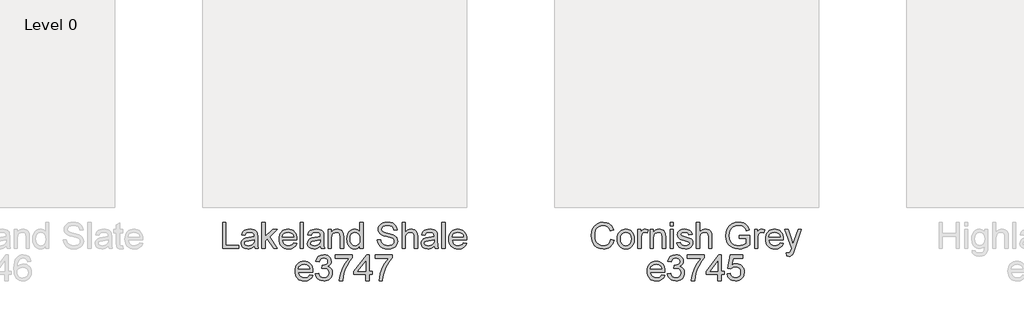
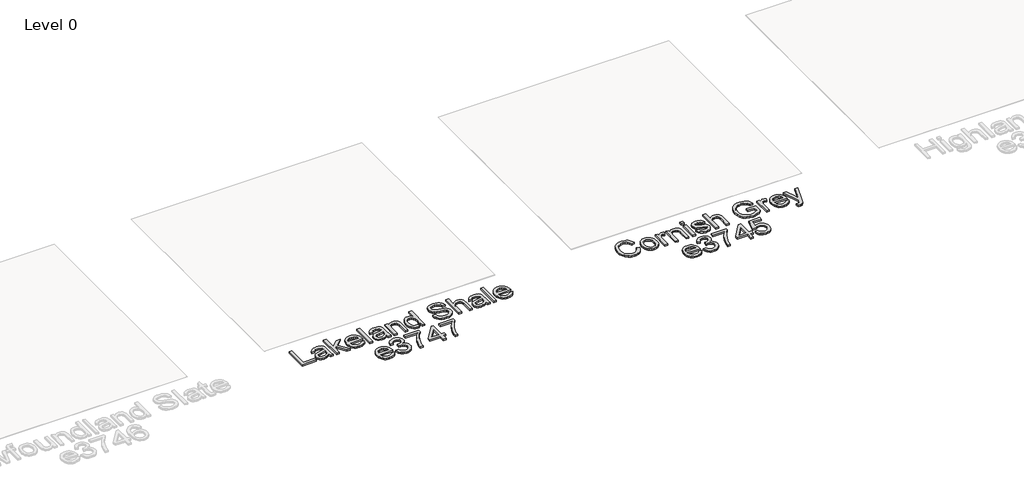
# One storey, part 2 of 3: 2 proxies.
"""IFC4 building model written with IfcOpenShell, lengths in millimetres."""

from ifc_helpers import new_model, si_unit, origin, origin_with_axes, place, context, project, spatial, polyline, outline, extrude, element, save

model = new_model("IFC4")

# Units and contexts
model_context = context("Model", 3, world=origin())
ifc_project = project(units=[si_unit("LENGTHUNIT", "METRE", prefix="MILLI")], contexts=[model_context])

# Site, building, storey
site = spatial("IfcSite", under=ifc_project)
building = spatial("IfcBuilding", under=site)
storey = spatial("IfcBuildingStorey", under=building, Name="Level 0", Elevation=0.0)

# Proxies
placement = place(None, origin())
element("IfcBuildingElementProxy", 1, Name="300mm Arial", ObjectType="300mm Arial", at=placement, inside=storey, context=model_context, shape_type="SweptSolid", body=[
    extrude(outline(polyline([(-5227.729111, 2062.8269821), (-5227.729111, 2358.2115975), (-5190.806034, 2358.2115975), (-5190.806034, 2099.7500591), (-5043.1137264, 2099.7500591), (-5043.1137264, 2062.8269821), (-5227.729111, 2062.8269821)])), origin_with_axes(), (0.0, 0.0, 1.0), 20.0),
    extrude(outline(polyline([(-4867.729111, 2090.5192898), (-4885.3703369, 2075.3930879), (-4903.5343994, 2065.4952514), (-4922.6359619, 2060.032511), (-4943.0896879, 2058.2115975), (-4973.9460581, 2062.5926071), (-4996.7074764, 2075.735636), (-5010.7429331, 2095.6935687), (-5015.4214187, 2120.5192898), (-5013.6545917, 2135.8257802), (-5008.354111, 2149.7260206), (-5000.1780292, 2161.6250591), (-4989.7843994, 2170.9279437), (-4963.931034, 2183.0433283), (-4931.9839187, 2188.5962129), (-4894.2315148, 2194.4375591), (-4867.9454571, 2201.2885206), (-4867.729111, 2209.5096745), (-4870.2711783, 2225.9880398), (-4877.8973802, 2236.7692898), (-4894.9526687, 2244.7740975), (-4918.7146879, 2247.4423668), (-4940.7098802, 2245.6665254), (-4956.0704571, 2240.3390014), (-4966.5452167, 2230.486237), (-4973.8829571, 2215.1346745), (-5010.806034, 2219.7500591), (-5004.3967792, 2239.9423668), (-4994.8324764, 2255.8077514), (-4981.2206975, 2267.9411648), (-4962.6690148, 2276.9375591), (-4939.9797119, 2282.5084725), (-4913.9550725, 2284.3654437), (-4888.994135, 2282.7248187), (-4869.2074764, 2277.8029437), (-4854.2886062, 2270.4021023), (-4843.931034, 2261.3245783), (-4837.0620437, 2250.1016216), (-4832.6089187, 2236.2644821), (-4830.806034, 2203.9567898), (-4830.806034, 2158.0192898), (-4828.931034, 2093.8726552), (-4821.5752648, 2062.8269821), (-4858.4983417, 2062.8269821), (-4867.729111, 2090.5192898)]), holes=[polyline([(-4867.729111, 2164.3654437), (-4927.2964187, 2153.0433283), (-4959.0632456, 2147.0577514), (-4973.4502648, 2137.3221745), (-4978.4983417, 2123.1154437), (-4975.7489427, 2112.1358764), (-4967.5007456, 2103.1394821), (-4953.9340389, 2097.1358764), (-4935.229111, 2095.1346745), (-4915.3973802, 2097.3432081), (-4897.8733417, 2103.9688091), (-4883.666611, 2113.7314293), (-4873.7868033, 2125.3510206), (-4869.4057937, 2137.3221745), (-4867.9454571, 2153.9087129), (-4867.729111, 2164.3654437)])]), origin_with_axes(), (0.0, 0.0, 1.0), 20.0),
    extrude(outline(polyline([(-4780.0368033, 2062.8269821), (-4780.0368033, 2358.2115975), (-4743.1137264, 2358.2115975), (-4743.1137264, 2199.485636), (-4660.3252648, 2279.7500591), (-4609.2675725, 2279.7500591), (-4693.0656494, 2198.4760206), (-4604.6521879, 2062.8269821), (-4647.7771879, 2062.8269821), (-4719.5319956, 2172.8029437), (-4743.1137264, 2149.9423668), (-4743.1137264, 2062.8269821), (-4780.0368033, 2062.8269821)])), origin_with_axes(), (0.0, 0.0, 1.0), 20.0),
    extrude(outline(polyline([(-4420.4694956, 2127.4423668), (-4384.2675725, 2122.8269821), (-4397.3114427, 2095.5493379), (-4418.1257456, 2075.1587129), (-4446.2417312, 2062.4483764), (-4481.1906494, 2058.2115975), (-4504.1008057, 2060.0392718), (-4524.5139667, 2065.5222946), (-4542.4301326, 2074.660666), (-4557.8493033, 2087.454386), (-4570.2486422, 2103.5473848), (-4579.1053129, 2122.5835927), (-4584.4193153, 2144.5630098), (-4586.1906494, 2169.485636), (-4584.4012864, 2195.2533644), (-4579.0331975, 2217.9652033), (-4570.0863826, 2237.6211528), (-4557.5608417, 2254.2212129), (-4542.182236, 2267.4093139), (-4524.6762264, 2276.829386), (-4505.0428129, 2282.4814293), (-4483.2819956, 2284.3654437), (-4462.2220497, 2282.4859365), (-4443.1768273, 2276.8474148), (-4426.1463285, 2267.4498788), (-4411.1305533, 2254.2933283), (-4398.8731915, 2237.7293259), (-4390.1179331, 2218.1094341), (-4384.864778, 2195.4336528), (-4383.1137264, 2169.7019821), (-4383.3300725, 2159.7500591), (-4549.2675725, 2159.7500591), (-4542.8763465, 2132.1118379), (-4528.0295917, 2111.7933283), (-4506.6023081, 2099.2993379), (-4480.4694956, 2095.1346745), (-4460.8180533, 2097.063761), (-4444.2675725, 2102.8510206), (-4430.8180533, 2112.8570302), (-4420.4694956, 2127.4423668)]), holes=[polyline([(-4549.2675725, 2196.673136), (-4420.0368033, 2196.673136), (-4425.0307937, 2216.1803475), (-4434.8204571, 2230.1346745), (-4456.3468994, 2243.1154437), (-4483.4262264, 2247.4423668), (-4508.3150485, 2243.9898427), (-4528.8949764, 2233.6322706), (-4543.2008658, 2217.4874389), (-4549.2675725, 2196.673136)])]), origin_with_axes(), (0.0, 0.0, 1.0), 20.0),
    extrude(outline(polyline([(-4346.1906494, 2062.8269821), (-4346.1906494, 2358.2115975), (-4309.2675725, 2358.2115975), (-4309.2675725, 2062.8269821), (-4346.1906494, 2062.8269821)])), origin_with_axes(), (0.0, 0.0, 1.0), 20.0),
    extrude(outline(polyline([(-4115.4214187, 2090.5192898), (-4133.0626446, 2075.3930879), (-4151.2267071, 2065.4952514), (-4170.3282696, 2060.032511), (-4190.7819956, 2058.2115975), (-4221.6383658, 2062.5926071), (-4244.399784, 2075.735636), (-4258.4352408, 2095.6935687), (-4263.1137264, 2120.5192898), (-4261.3468994, 2135.8257802), (-4256.0464187, 2149.7260206), (-4247.8703369, 2161.6250591), (-4237.4767071, 2170.9279437), (-4211.6233417, 2183.0433283), (-4179.6762264, 2188.5962129), (-4141.9238225, 2194.4375591), (-4115.6377648, 2201.2885206), (-4115.4214187, 2209.5096745), (-4117.963486, 2225.9880398), (-4125.5896879, 2236.7692898), (-4142.6449764, 2244.7740975), (-4166.4069956, 2247.4423668), (-4188.4021879, 2245.6665254), (-4203.7627648, 2240.3390014), (-4214.2375244, 2230.486237), (-4221.5752648, 2215.1346745), (-4258.4983417, 2219.7500591), (-4252.0890869, 2239.9423668), (-4242.524784, 2255.8077514), (-4228.9130052, 2267.9411648), (-4210.3613225, 2276.9375591), (-4187.6720196, 2282.5084725), (-4161.6473802, 2284.3654437), (-4136.6864427, 2282.7248187), (-4116.899784, 2277.8029437), (-4101.9809139, 2270.4021023), (-4091.6233417, 2261.3245783), (-4084.7543514, 2250.1016216), (-4080.3012264, 2236.2644821), (-4078.4983417, 2203.9567898), (-4078.4983417, 2158.0192898), (-4076.6233417, 2093.8726552), (-4069.2675725, 2062.8269821), (-4106.1906494, 2062.8269821), (-4115.4214187, 2090.5192898)]), holes=[polyline([(-4115.4214187, 2164.3654437), (-4174.9887264, 2153.0433283), (-4206.7555533, 2147.0577514), (-4221.1425725, 2137.3221745), (-4226.1906494, 2123.1154437), (-4223.4412504, 2112.1358764), (-4215.1930533, 2103.1394821), (-4201.6263465, 2097.1358764), (-4182.9214187, 2095.1346745), (-4163.0896879, 2097.3432081), (-4145.5656494, 2103.9688091), (-4131.3589187, 2113.7314293), (-4121.479111, 2125.3510206), (-4117.0981014, 2137.3221745), (-4115.6377648, 2153.9087129), (-4115.4214187, 2164.3654437)])]), origin_with_axes(), (0.0, 0.0, 1.0), 20.0),
    extrude(outline(polyline([(-4027.729111, 2062.8269821), (-4027.729111, 2279.7500591), (-3990.806034, 2279.7500591), (-3990.806034, 2249.4615975), (-3977.97851, 2264.7320302), (-3962.572861, 2275.6394821), (-3944.5890869, 2282.1839533), (-3924.0271879, 2284.3654437), (-3905.8270677, 2282.6076312), (-3889.1593994, 2277.3341937), (-3875.259159, 2269.2031841), (-3865.3613225, 2258.8726552), (-3854.291611, 2231.7212129), (-3852.3444956, 2196.0240975), (-3852.3444956, 2062.8269821), (-3889.2675725, 2062.8269821), (-3889.2675725, 2191.048136), (-3893.5223802, 2223.7164052), (-3899.4087985, 2233.4429677), (-3908.5584379, 2240.9880398), (-3920.2862023, 2245.828785), (-3933.9069956, 2247.4423668), (-3955.5325965, 2243.8185687), (-3973.9670917, 2232.9471745), (-3981.334129, 2224.0724749), (-3986.5962985, 2211.9435687), (-3990.806034, 2177.923136), (-3990.806034, 2062.8269821), (-4027.729111, 2062.8269821)])), origin_with_axes(), (0.0, 0.0, 1.0), 20.0),
    extrude(outline(polyline([(-3667.729111, 2062.8269821), (-3667.729111, 2097.6587129), (-3678.7762864, 2080.4005999), (-3692.1581975, 2068.0733764), (-3707.8748441, 2060.6770422), (-3725.9262264, 2058.2115975), (-3749.7964187, 2061.7813091), (-3771.6473802, 2072.4904437), (-3790.1449764, 2089.5908043), (-3803.9550725, 2112.3341937), (-3812.5548321, 2139.8011408), (-3815.4214187, 2171.0721745), (-3812.7801927, 2201.9555879), (-3804.8565148, 2229.8462129), (-3791.6593994, 2253.157511), (-3773.197861, 2270.3029437), (-3750.869135, 2280.8498187), (-3726.0704571, 2284.3654437), (-3708.0055533, 2281.8504196), (-3692.0319956, 2274.3053475), (-3678.4923321, 2262.7398427), (-3667.729111, 2248.1635206), (-3667.729111, 2358.2115975), (-3630.806034, 2358.2115975), (-3630.806034, 2062.8269821), (-3667.729111, 2062.8269821)]), holes=[polyline([(-3778.4983417, 2171.2164052), (-3774.3336783, 2137.8179677), (-3761.8396879, 2114.0649629), (-3743.6846398, 2099.8672466), (-3722.5368033, 2095.1346745), (-3701.3979812, 2099.6509004), (-3683.7026687, 2113.1995783), (-3671.7225004, 2136.033112), (-3667.729111, 2168.4039052), (-3671.7946158, 2203.7945302), (-3683.9911302, 2228.3317898), (-3702.1371639, 2242.6647225), (-3724.0512264, 2247.4423668), (-3745.415409, 2242.8540254), (-3762.9214187, 2229.0890014), (-3774.604111, 2205.4441696), (-3778.4983417, 2171.2164052)])]), origin_with_axes(), (0.0, 0.0, 1.0), 20.0),
    extrude(outline(polyline([(-3469.2675725, 2164.3654437), (-3432.3444956, 2164.3654437), (-3428.1077167, 2143.87566), (-3420.4454571, 2127.4063091), (-3408.4923321, 2114.3353956), (-3391.3829571, 2104.0409245), (-3370.4694956, 2097.361237), (-3347.104111, 2095.1346745), (-3326.5331975, 2096.8203716), (-3308.5223802, 2101.8774629), (-3293.9280292, 2109.8822706), (-3283.6065148, 2120.4111168), (-3277.4676927, 2132.4994581), (-3275.4214187, 2145.1827514), (-3276.9538706, 2157.5415254), (-3281.5512264, 2168.2236168), (-3290.8901687, 2177.3371985), (-3306.6473802, 2184.9904437), (-3360.4093994, 2199.0890014), (-3395.7008658, 2208.4189293), (-3418.2819956, 2217.298136), (-3436.6624042, 2229.720011), (-3449.6882456, 2244.7740975), (-3457.4496639, 2262.1358764), (-3460.0368033, 2281.4808283), (-3456.8366831, 2303.1064293), (-3447.2363225, 2323.2716937), (-3431.4881254, 2340.3630398), (-3409.8444956, 2352.766886), (-3383.8649283, 2360.3119581), (-3355.1089187, 2362.8269821), (-3323.9550725, 2360.1947706), (-3296.6954571, 2352.298136), (-3274.3036302, 2339.2993379), (-3257.7531494, 2321.360636), (-3247.2783898, 2299.5998187), (-3243.1137264, 2275.1346745), (-3280.0368033, 2275.1346745), (-3286.8156494, 2297.1659245), (-3300.9502648, 2313.0673668), (-3323.0356014, 2322.6947706), (-3353.666611, 2325.9039052), (-3385.0187744, 2322.7308283), (-3406.5271879, 2313.2115975), (-3418.9670917, 2299.2031841), (-3423.1137264, 2282.5625591), (-3420.1750244, 2268.3738571), (-3411.3589187, 2256.9615975), (-3390.5175725, 2246.7572706), (-3351.0704571, 2236.3365975), (-3285.7339187, 2217.8029437), (-3264.6852408, 2204.407511), (-3250.0007456, 2187.8750591), (-3241.3739427, 2168.3858764), (-3238.4983417, 2146.1202514), (-3241.806635, 2123.3588331), (-3251.7315148, 2101.9495783), (-3267.8673321, 2083.5240975), (-3289.8084379, 2069.7140014), (-3316.1936542, 2061.0871985), (-3345.6618033, 2058.2115975), (-3381.8366831, 2061.3125591), (-3411.6113225, 2070.6154437), (-3435.3282696, 2086.1563091), (-3453.3300725, 2107.9712129), (-3464.8865629, 2134.5457321), (-3469.2675725, 2164.3654437)])), origin_with_axes(), (0.0, 0.0, 1.0), 20.0),
    extrude(outline(polyline([(-3187.729111, 2062.8269821), (-3187.729111, 2358.2115975), (-3150.806034, 2358.2115975), (-3150.806034, 2249.6058283), (-3137.2438345, 2264.81316), (-3122.0139667, 2275.6755398), (-3105.1164307, 2282.1929677), (-3086.5512264, 2284.3654437), (-3064.2495437, 2281.9946504), (-3045.0848802, 2274.8822706), (-3029.994736, 2263.5871985), (-3019.916611, 2248.6683283), (-3014.2375244, 2228.1695302), (-3012.3444956, 2200.1346745), (-3012.3444956, 2062.8269821), (-3049.2675725, 2062.8269821), (-3049.2675725, 2196.3125591), (-3052.2062744, 2219.4255398), (-3061.0223802, 2235.2548668), (-3075.229111, 2244.3954918), (-3094.3396879, 2247.4423668), (-3109.9436542, 2245.3870783), (-3124.5920917, 2239.2212129), (-3136.7255052, 2229.5397225), (-3144.7843994, 2216.9375591), (-3149.3006254, 2200.188761), (-3150.806034, 2178.0673668), (-3150.806034, 2062.8269821), (-3187.729111, 2062.8269821)])), origin_with_axes(), (0.0, 0.0, 1.0), 20.0),
    extrude(outline(polyline([(-2823.1137264, 2090.5192898), (-2840.7549523, 2075.3930879), (-2858.9190148, 2065.4952514), (-2878.0205773, 2060.032511), (-2898.4743033, 2058.2115975), (-2929.3306735, 2062.5926071), (-2952.0920917, 2075.735636), (-2966.1275485, 2095.6935687), (-2970.806034, 2120.5192898), (-2969.0392071, 2135.8257802), (-2963.7387264, 2149.7260206), (-2955.5626446, 2161.6250591), (-2945.1690148, 2170.9279437), (-2919.3156494, 2183.0433283), (-2887.368534, 2188.5962129), (-2849.6161302, 2194.4375591), (-2823.3300725, 2201.2885206), (-2823.1137264, 2209.5096745), (-2825.6557937, 2225.9880398), (-2833.2819956, 2236.7692898), (-2850.337284, 2244.7740975), (-2874.0993033, 2247.4423668), (-2896.0944956, 2245.6665254), (-2911.4550725, 2240.3390014), (-2921.9298321, 2230.486237), (-2929.2675725, 2215.1346745), (-2966.1906494, 2219.7500591), (-2959.7813946, 2239.9423668), (-2950.2170917, 2255.8077514), (-2936.6053129, 2267.9411648), (-2918.0536302, 2276.9375591), (-2895.3643273, 2282.5084725), (-2869.3396879, 2284.3654437), (-2844.3787504, 2282.7248187), (-2824.5920917, 2277.8029437), (-2809.6732215, 2270.4021023), (-2799.3156494, 2261.3245783), (-2792.446659, 2250.1016216), (-2787.993534, 2236.2644821), (-2786.1906494, 2203.9567898), (-2786.1906494, 2158.0192898), (-2784.3156494, 2093.8726552), (-2776.9598802, 2062.8269821), (-2813.8829571, 2062.8269821), (-2823.1137264, 2090.5192898)]), holes=[polyline([(-2823.1137264, 2164.3654437), (-2882.681034, 2153.0433283), (-2914.447861, 2147.0577514), (-2928.8348802, 2137.3221745), (-2933.8829571, 2123.1154437), (-2931.1335581, 2112.1358764), (-2922.885361, 2103.1394821), (-2909.3186542, 2097.1358764), (-2890.6137264, 2095.1346745), (-2870.7819956, 2097.3432081), (-2853.2579571, 2103.9688091), (-2839.0512264, 2113.7314293), (-2829.1714187, 2125.3510206), (-2824.790409, 2137.3221745), (-2823.3300725, 2153.9087129), (-2823.1137264, 2164.3654437)])]), origin_with_axes(), (0.0, 0.0, 1.0), 20.0),
    extrude(outline(polyline([(-2735.4214187, 2062.8269821), (-2735.4214187, 2358.2115975), (-2698.4983417, 2358.2115975), (-2698.4983417, 2062.8269821), (-2735.4214187, 2062.8269821)])), origin_with_axes(), (0.0, 0.0, 1.0), 20.0),
    extrude(outline(polyline([(-2491.2387264, 2127.4423668), (-2455.0368033, 2122.8269821), (-2468.0806735, 2095.5493379), (-2488.8949764, 2075.1587129), (-2517.0109619, 2062.4483764), (-2551.9598802, 2058.2115975), (-2574.8700364, 2060.0392718), (-2595.2831975, 2065.5222946), (-2613.1993634, 2074.660666), (-2628.618534, 2087.454386), (-2641.017873, 2103.5473848), (-2649.8745437, 2122.5835927), (-2655.1885461, 2144.5630098), (-2656.9598802, 2169.485636), (-2655.1705172, 2195.2533644), (-2649.8024283, 2217.9652033), (-2640.8556134, 2237.6211528), (-2628.3300725, 2254.2212129), (-2612.9514667, 2267.4093139), (-2595.4454571, 2276.829386), (-2575.8120437, 2282.4814293), (-2554.0512264, 2284.3654437), (-2532.9912804, 2282.4859365), (-2513.9460581, 2276.8474148), (-2496.9155593, 2267.4498788), (-2481.899784, 2254.2933283), (-2469.6424223, 2237.7293259), (-2460.8871639, 2218.1094341), (-2455.6340088, 2195.4336528), (-2453.8829571, 2169.7019821), (-2454.0993033, 2159.7500591), (-2620.0368033, 2159.7500591), (-2613.6455773, 2132.1118379), (-2598.7988225, 2111.7933283), (-2577.3715389, 2099.2993379), (-2551.2387264, 2095.1346745), (-2531.587284, 2097.063761), (-2515.0368033, 2102.8510206), (-2501.587284, 2112.8570302), (-2491.2387264, 2127.4423668)]), holes=[polyline([(-2620.0368033, 2196.673136), (-2490.806034, 2196.673136), (-2495.8000244, 2216.1803475), (-2505.5896879, 2230.1346745), (-2527.1161302, 2243.1154437), (-2554.1954571, 2247.4423668), (-2579.0842792, 2243.9898427), (-2599.6642071, 2233.6322706), (-2613.9700965, 2217.4874389), (-2620.0368033, 2196.673136)])]), origin_with_axes(), (0.0, 0.0, 1.0), 20.0),
    extrude(outline(polyline([(-4238.1618033, 1762.8269821), (-4201.9598802, 1758.2115975), (-4215.0037504, 1730.9339533), (-4235.8180533, 1710.5433283), (-4263.9340389, 1697.8329918), (-4298.8829571, 1693.5962129), (-4321.7931134, 1695.4238872), (-4342.2062744, 1700.90691), (-4360.1224403, 1710.0452814), (-4375.541611, 1722.8390014), (-4387.9409499, 1738.9320002), (-4396.7976206, 1757.9682081), (-4402.111623, 1779.9476252), (-4403.8829571, 1804.8702514), (-4402.0935941, 1830.6379797), (-4396.7255052, 1853.3498187), (-4387.7786903, 1873.0057682), (-4375.2531494, 1889.6058283), (-4359.8745437, 1902.7939293), (-4342.368534, 1912.2140014), (-4322.7351206, 1917.8660446), (-4300.9743033, 1919.7500591), (-4279.9143574, 1917.8705519), (-4260.869135, 1912.2320302), (-4243.8386362, 1902.8344942), (-4228.822861, 1889.6779437), (-4216.5654992, 1873.1139413), (-4207.8102408, 1853.4940495), (-4202.5570857, 1830.8182682), (-4200.806034, 1805.0865975), (-4201.0223802, 1795.1346745), (-4366.9598802, 1795.1346745), (-4360.5686542, 1767.4964533), (-4345.7218994, 1747.1779437), (-4324.2946158, 1734.6839533), (-4298.1618033, 1730.5192898), (-4278.510361, 1732.4483764), (-4261.9598802, 1738.235636), (-4248.510361, 1748.2416456), (-4238.1618033, 1762.8269821)]), holes=[polyline([(-4366.9598802, 1832.0577514), (-4237.729111, 1832.0577514), (-4242.7231014, 1851.5649629), (-4252.5127648, 1865.5192898), (-4274.0392071, 1878.5000591), (-4301.118534, 1882.8269821), (-4326.0073562, 1879.3744581), (-4346.587284, 1869.016886), (-4360.8931735, 1852.8720543), (-4366.9598802, 1832.0577514)])]), origin_with_axes(), (0.0, 0.0, 1.0), 20.0),
    extrude(outline(polyline([(-4173.1137264, 1776.673136), (-4136.1906494, 1781.2885206), (-4127.9244235, 1758.0853956), (-4115.8180533, 1742.4183283), (-4099.2765869, 1733.4940495), (-4077.7050725, 1730.5192898), (-4052.3925725, 1734.6118379), (-4032.8493033, 1746.8894821), (-4020.3553129, 1765.2067898), (-4016.1906494, 1787.4183283), (-4020.3192552, 1808.5030639), (-4032.7050725, 1825.6034245), (-4051.4550725, 1836.9345543), (-4074.6762264, 1840.7115975), (-4100.5656494, 1836.673136), (-4096.4550725, 1873.5962129), (-4090.541611, 1873.1635206), (-4068.4202167, 1875.813761), (-4048.6425725, 1883.7644821), (-4034.6882456, 1897.2140014), (-4030.0368033, 1916.360636), (-4033.4081975, 1932.3071504), (-4043.5223802, 1945.2428475), (-4058.9550725, 1953.8155639), (-4078.2819956, 1956.673136), (-4097.6449764, 1953.7885206), (-4113.4743033, 1945.1346745), (-4125.0307937, 1930.7115975), (-4131.5752648, 1910.5192898), (-4168.4983417, 1915.1346745), (-4157.6269475, 1948.2897225), (-4138.2819956, 1973.0433283), (-4111.8156494, 1988.4579918), (-4079.5800725, 1993.5962129), (-4056.3679331, 1991.06316), (-4035.0488225, 1983.4640014), (-4017.0740629, 1971.4748187), (-4003.8949764, 1955.7716937), (-3995.8090389, 1937.6797466), (-3993.1137264, 1918.5240975), (-3995.6738225, 1900.6755398), (-4003.354111, 1884.485636), (-4016.0464187, 1870.6935687), (-4033.6425725, 1860.0385206), (-4010.5295917, 1850.6995783), (-3993.4021879, 1834.798136), (-3982.8012264, 1813.1995783), (-3979.2675725, 1786.7692898), (-3981.0343994, 1768.0373187), (-3986.3348802, 1750.7837129), (-3995.1690148, 1735.0084725), (-4007.5368033, 1720.7115975), (-4022.6044114, 1708.8486168), (-4039.5380052, 1700.3750591), (-4058.3375845, 1695.2909245), (-4079.0031494, 1693.5962129), (-4114.7002648, 1699.3834725), (-4130.0608417, 1706.6175471), (-4143.7627648, 1716.7452514), (-4155.251647, 1729.1716336), (-4163.9731014, 1743.3017418), (-4173.1137264, 1776.673136)])), origin_with_axes(), (0.0, 0.0, 1.0), 20.0),
    extrude(outline(polyline([(-3946.9598802, 1952.0577514), (-3946.9598802, 1988.9808283), (-3753.1137264, 1988.9808283), (-3753.1137264, 1959.1250591), (-3780.7429331, 1924.158112), (-3808.1017071, 1879.6899629), (-3832.2333177, 1829.7771023), (-3850.181034, 1778.4760206), (-3858.979111, 1740.0926071), (-3863.8829571, 1698.2115975), (-3900.806034, 1698.2115975), (-3896.8126446, 1736.2704918), (-3886.1305533, 1781.5048668), (-3869.0482215, 1829.4525831), (-3845.854111, 1875.6515014), (-3818.774784, 1917.4153235), (-3790.0368033, 1952.0577514), (-3946.9598802, 1952.0577514)])), origin_with_axes(), (0.0, 0.0, 1.0), 20.0),
    extrude(outline(polyline([(-3600.806034, 1698.2115975), (-3600.806034, 1767.4423668), (-3734.6521879, 1767.4423668), (-3734.6521879, 1804.3654437), (-3591.5752648, 1988.9808283), (-3563.8829571, 1988.9808283), (-3563.8829571, 1804.3654437), (-3526.9598802, 1804.3654437), (-3526.9598802, 1767.4423668), (-3563.8829571, 1767.4423668), (-3563.8829571, 1698.2115975), (-3600.806034, 1698.2115975)]), holes=[polyline([(-3600.806034, 1804.3654437), (-3600.806034, 1918.4519821), (-3689.2194956, 1804.3654437), (-3600.806034, 1804.3654437)])]), origin_with_axes(), (0.0, 0.0, 1.0), 20.0),
    extrude(outline(polyline([(-3494.6521879, 1952.0577514), (-3494.6521879, 1988.9808283), (-3300.806034, 1988.9808283), (-3300.806034, 1959.1250591), (-3328.4352408, 1924.158112), (-3355.7940148, 1879.6899629), (-3379.9256254, 1829.7771023), (-3397.8733417, 1778.4760206), (-3406.6714187, 1740.0926071), (-3411.5752648, 1698.2115975), (-3448.4983417, 1698.2115975), (-3444.5049523, 1736.2704918), (-3433.822861, 1781.5048668), (-3416.7405292, 1829.4525831), (-3393.5464187, 1875.6515014), (-3366.4670917, 1917.4153235), (-3337.729111, 1952.0577514), (-3494.6521879, 1952.0577514)])), origin_with_axes(), (0.0, 0.0, 1.0), 20.0),
])
element("IfcBuildingElementProxy", 2, Name="300mm Arial", ObjectType="300mm Arial", at=placement, inside=storey, context=model_context, shape_type="SweptSolid", body=[
    extrude(outline(polyline([(-816.9598802, 2167.8269821), (-780.0368033, 2158.3077514), (-787.3429932, 2135.3457622), (-797.0740629, 2115.28191), (-809.2300124, 2098.1161949), (-823.8108417, 2083.8486168), (-840.4875244, 2072.6324208), (-858.931034, 2064.6208523), (-879.1413706, 2059.8139112), (-901.118534, 2058.2115975), (-943.9460581, 2063.0613571), (-977.9574764, 2077.610636), (-1004.0271879, 2101.3546264), (-1023.0295917, 2133.7885206), (-1034.6311542, 2171.9195302), (-1038.4983417, 2212.7548668), (-1034.1263465, 2255.8257802), (-1021.010361, 2293.0192898), (-999.8354812, 2323.1545062), (-971.2868033, 2345.0505398), (-937.4286302, 2358.3828716), (-900.3252648, 2362.8269821), (-859.8414908, 2357.0757802), (-842.2295617, 2349.8867778), (-826.3709379, 2339.8221745), (-812.5270377, 2327.1478956), (-800.9592792, 2312.1298668), (-784.6521879, 2275.0625591), (-821.5752648, 2266.2644821), (-834.3757456, 2293.1905639), (-851.8637264, 2311.6611168), (-874.2555533, 2322.3432081), (-901.7675725, 2325.9039052), (-933.4803129, 2321.9555879), (-959.5319956, 2310.110636), (-979.3006254, 2291.6130398), (-992.1642071, 2267.7067898), (-999.2225004, 2240.6815495), (-1001.5752648, 2212.8269821), (-998.7898081, 2178.7164052), (-990.4334379, 2149.2212129), (-976.1906494, 2125.4682081), (-955.7459379, 2108.5841937), (-931.2357215, 2098.4970543), (-904.7964187, 2095.1346745), (-873.9761062, 2099.7140014), (-848.2940148, 2113.4519821), (-828.9039908, 2136.204386), (-816.9598802, 2167.8269821)])), origin_with_axes(), (0.0, 0.0, 1.0), 20.0),
    extrude(outline(polyline([(-743.1137264, 2171.2885206), (-741.1170316, 2199.3819701), (-735.1269475, 2223.5902033), (-725.1434739, 2243.9132201), (-711.166611, 2260.3510206), (-697.0950965, 2270.8573307), (-681.5632456, 2278.3618379), (-664.5710581, 2282.8645422), (-646.118534, 2284.3654437), (-625.7481915, 2282.5377694), (-607.3294715, 2277.0547466), (-590.8623742, 2267.9163752), (-576.3468994, 2255.1226552), (-564.4996939, 2239.106279), (-556.0374042, 2220.2999389), (-550.9600304, 2198.7036348), (-549.2675725, 2174.3173668), (-552.260361, 2137.0156841), (-561.2387264, 2108.6202514), (-575.9412504, 2087.3552273), (-596.1065148, 2071.4447706), (-620.0578369, 2061.5198908), (-646.118534, 2058.2115975), (-666.7863526, 2060.032511), (-685.3763465, 2065.4952514), (-701.888516, 2074.5998187), (-716.322861, 2087.3462129), (-728.0438646, 2103.5180879), (-736.41601, 2122.8990975), (-741.4392973, 2145.4892418), (-743.1137264, 2171.2885206)]), holes=[polyline([(-706.1906494, 2171.360636), (-701.9178129, 2137.9441696), (-689.0993033, 2114.1370783), (-669.8084379, 2099.8852754), (-646.118534, 2095.1346745), (-622.5368033, 2099.9123187), (-603.2819956, 2114.2452514), (-590.463486, 2138.3678475), (-586.1906494, 2172.5144821), (-590.4905292, 2204.9573908), (-603.3901687, 2228.4399629), (-622.6720196, 2242.6917658), (-646.118534, 2247.4423668), (-669.8084379, 2242.7097946), (-689.0993033, 2228.5120783), (-701.9178129, 2204.7590735), (-706.1906494, 2171.360636)])]), origin_with_axes(), (0.0, 0.0, 1.0), 20.0),
    extrude(outline(polyline([(-507.729111, 2062.8269821), (-507.729111, 2279.7500591), (-475.4214187, 2279.7500591), (-475.4214187, 2247.6587129), (-463.4863225, 2266.2644821), (-452.4887264, 2277.2260206), (-441.4550725, 2282.5805879), (-429.4118033, 2284.3654437), (-411.0223802, 2281.516886), (-392.3444956, 2272.9712129), (-404.6762264, 2239.8702514), (-417.6569956, 2245.5493379), (-430.6377648, 2247.4423668), (-441.6624042, 2245.6214533), (-451.5151687, 2240.1587129), (-459.4749042, 2231.4688091), (-464.8204571, 2219.9664052), (-469.3096398, 2199.3414052), (-470.806034, 2176.8414052), (-470.806034, 2062.8269821), (-507.729111, 2062.8269821)])), origin_with_axes(), (0.0, 0.0, 1.0), 20.0),
    extrude(outline(polyline([(-369.2675725, 2062.8269821), (-369.2675725, 2279.7500591), (-332.3444956, 2279.7500591), (-332.3444956, 2249.4615975), (-319.5169715, 2264.7320302), (-304.1113225, 2275.6394821), (-286.1275485, 2282.1839533), (-265.5656494, 2284.3654437), (-247.3655292, 2282.6076312), (-230.697861, 2277.3341937), (-216.7976206, 2269.2031841), (-206.899784, 2258.8726552), (-195.8300725, 2231.7212129), (-193.8829571, 2196.0240975), (-193.8829571, 2062.8269821), (-230.806034, 2062.8269821), (-230.806034, 2191.048136), (-235.0608417, 2223.7164052), (-240.94726, 2233.4429677), (-250.0968994, 2240.9880398), (-261.8246639, 2245.828785), (-275.4454571, 2247.4423668), (-297.0710581, 2243.8185687), (-315.5055533, 2232.9471745), (-322.8725905, 2224.0724749), (-328.13476, 2211.9435687), (-332.3444956, 2177.923136), (-332.3444956, 2062.8269821), (-369.2675725, 2062.8269821)])), origin_with_axes(), (0.0, 0.0, 1.0), 20.0),
    extrude(outline(polyline([(-143.1137264, 2321.2885206), (-143.1137264, 2358.2115975), (-106.1906494, 2358.2115975), (-106.1906494, 2321.2885206), (-143.1137264, 2321.2885206)])), origin_with_axes(), (0.0, 0.0, 1.0), 20.0),
    extrude(outline(polyline([(-143.1137264, 2062.8269821), (-143.1137264, 2279.7500591), (-106.1906494, 2279.7500591), (-106.1906494, 2062.8269821), (-143.1137264, 2062.8269821)])), origin_with_axes(), (0.0, 0.0, 1.0), 20.0),
    extrude(outline(polyline([(-64.6521879, 2127.4423668), (-27.729111, 2132.0577514), (-21.9057937, 2116.2644821), (-10.6377648, 2104.6539052), (6.147091, 2097.5144821), (28.520889, 2095.1346745), (50.6242544, 2097.3161648), (66.1651198, 2103.860636), (75.3598313, 2113.3438091), (78.4247352, 2124.3414052), (75.3418025, 2133.7524629), (66.0930044, 2140.9279437), (28.0881967, 2151.4567898), (-27.5127648, 2169.5216937), (-41.5842792, 2178.5992177), (-51.7795917, 2190.6154437), (-57.9725004, 2204.8041456), (-60.0368033, 2220.3990975), (-58.3781494, 2234.704987), (-53.4021879, 2247.9111168), (-45.5596398, 2259.4946504), (-35.3012264, 2268.9327514), (-11.8276687, 2279.8582321), (19.9391583, 2284.3654437), (43.9716102, 2282.5535446), (64.8670429, 2277.1178475), (81.6699275, 2268.5902033), (93.4247352, 2257.5024629), (101.2131967, 2243.0343139), (106.1170429, 2224.3654437), (69.193966, 2219.7500591), (64.5335092, 2231.3696504), (55.3117544, 2240.1226552), (41.4385573, 2245.6124389), (22.8237736, 2247.4423668), (1.6218506, 2245.6935687), (-12.5127648, 2240.4471745), (-20.463486, 2232.8750591), (-23.1137264, 2224.1490975), (-18.7146879, 2213.4039052), (-4.9406494, 2205.2548668), (26.8622352, 2197.3942898), (81.0569467, 2180.0144821), (95.3718506, 2171.7031841), (106.225216, 2160.3269821), (113.0671631, 2145.8498187), (115.3478121, 2128.235636), (112.6705285, 2110.0265014), (104.6386775, 2092.8990975), (91.5587496, 2078.1965735), (73.7372352, 2067.2620783), (52.2107929, 2060.4742177), (28.0160813, 2058.2115975), (-9.213486, 2062.5745783), (-36.3829571, 2075.6635206), (-54.5199764, 2097.3341937), (-64.6521879, 2127.4423668)])), origin_with_axes(), (0.0, 0.0, 1.0), 20.0),
    extrude(outline(polyline([(156.8862736, 2062.8269821), (156.8862736, 2358.2115975), (193.8093506, 2358.2115975), (193.8093506, 2249.6058283), (207.3715501, 2264.81316), (222.6014179, 2275.6755398), (239.4989539, 2282.1929677), (258.0641583, 2284.3654437), (280.365841, 2281.9946504), (299.5305044, 2274.8822706), (314.6206486, 2263.5871985), (324.6987736, 2248.6683283), (330.3778602, 2228.1695302), (332.270889, 2200.1346745), (332.270889, 2062.8269821), (295.3478121, 2062.8269821), (295.3478121, 2196.3125591), (292.4091102, 2219.4255398), (283.5930044, 2235.2548668), (269.3862736, 2244.3954918), (250.2756967, 2247.4423668), (234.6717304, 2245.3870783), (220.0232929, 2239.2212129), (207.8898794, 2229.5397225), (199.8309852, 2216.9375591), (195.3147592, 2200.188761), (193.8093506, 2178.0673668), (193.8093506, 2062.8269821), (156.8862736, 2062.8269821)])), origin_with_axes(), (0.0, 0.0, 1.0), 20.0),
    extrude(outline(polyline([(641.5016583, 2178.2115975), (641.5016583, 2215.1346745), (761.5016583, 2215.1346745), (761.5016583, 2104.7260206), (732.3399996, 2084.4435687), (702.2588698, 2069.8942898), (671.3303842, 2061.1322706), (639.6266583, 2058.2115975), (598.2053842, 2062.8540254), (560.7684852, 2076.7813091), (529.6687256, 2099.5066696), (507.2588698, 2130.5433283), (493.7101919, 2167.7728956), (489.193966, 2209.0769821), (493.6921631, 2250.6785446), (507.1867544, 2289.3774629), (529.1188458, 2321.8384004), (558.9295429, 2344.7260206), (595.239639, 2358.3017418), (636.6699275, 2362.8269821), (667.084591, 2360.203785), (694.4343506, 2352.3341937), (717.4662015, 2339.7861168), (734.927139, 2323.1274629), (747.8448073, 2301.5559485), (757.2468506, 2274.2692898), (723.208389, 2264.6779437), (715.6092304, 2284.1400831), (706.3694467, 2298.8245783), (694.145889, 2309.8942898), (677.5954083, 2318.5120783), (657.8628361, 2324.0559485), (636.0930044, 2325.9039052), (610.6092304, 2323.9117177), (588.8213698, 2317.9351552), (570.8105525, 2308.7224148), (556.6579083, 2297.0216937), (537.6555044, 2268.5721745), (529.0016583, 2240.6995783), (526.1170429, 2210.5914052), (529.5875958, 2175.28191), (539.9992544, 2146.2284245), (557.036514, 2123.6382802), (580.3838698, 2107.7188091), (607.7065861, 2098.2807081), (636.6699275, 2095.1346745), (662.2438458, 2097.5054677), (687.1867544, 2104.6178475), (708.8484131, 2114.4165254), (724.5785813, 2124.8462129), (724.5785813, 2178.2115975), (641.5016583, 2178.2115975)])), origin_with_axes(), (0.0, 0.0, 1.0), 20.0),
    extrude(outline(polyline([(816.8862736, 2062.8269821), (816.8862736, 2279.7500591), (849.193966, 2279.7500591), (849.193966, 2247.6587129), (861.1290621, 2266.2644821), (872.1266583, 2277.2260206), (883.1603121, 2282.5805879), (895.2035813, 2284.3654437), (913.5930044, 2281.516886), (932.270889, 2272.9712129), (919.9391583, 2239.8702514), (906.958389, 2245.5493379), (893.9776198, 2247.4423668), (882.9529804, 2245.6214533), (873.100216, 2240.1587129), (865.1404804, 2231.4688091), (859.7949275, 2219.9664052), (855.3057448, 2199.3414052), (853.8093506, 2176.8414052), (853.8093506, 2062.8269821), (816.8862736, 2062.8269821)])), origin_with_axes(), (0.0, 0.0, 1.0), 20.0),
    extrude(outline(polyline([(1107.2228121, 2127.4423668), (1143.4247352, 2122.8269821), (1130.380865, 2095.5493379), (1109.5665621, 2075.1587129), (1081.4505765, 2062.4483764), (1046.5016583, 2058.2115975), (1023.591502, 2060.0392718), (1003.178341, 2065.5222946), (985.2621751, 2074.660666), (969.8430044, 2087.454386), (957.4436655, 2103.5473848), (948.5869948, 2122.5835927), (943.2729924, 2144.5630098), (941.5016583, 2169.485636), (943.2910212, 2195.2533644), (948.6591102, 2217.9652033), (957.6059251, 2237.6211528), (970.131466, 2254.2212129), (985.5100717, 2267.4093139), (1003.0160813, 2276.829386), (1022.6494948, 2282.4814293), (1044.4103121, 2284.3654437), (1065.470258, 2282.4859365), (1084.5154804, 2276.8474148), (1101.5459792, 2267.4498788), (1116.5617544, 2254.2933283), (1128.8191162, 2237.7293259), (1137.5743746, 2218.1094341), (1142.8275297, 2195.4336528), (1144.5785813, 2169.7019821), (1144.3622352, 2159.7500591), (978.4247352, 2159.7500591), (984.8159611, 2132.1118379), (999.662716, 2111.7933283), (1021.0899996, 2099.2993379), (1047.2228121, 2095.1346745), (1066.8742544, 2097.063761), (1083.4247352, 2102.8510206), (1096.8742544, 2112.8570302), (1107.2228121, 2127.4423668)]), holes=[polyline([(978.4247352, 2196.673136), (1107.6555044, 2196.673136), (1102.661514, 2216.1803475), (1092.8718506, 2230.1346745), (1071.3454083, 2243.1154437), (1044.2660813, 2247.4423668), (1019.3772592, 2243.9898427), (998.7973313, 2233.6322706), (984.4914419, 2217.4874389), (978.4247352, 2196.673136)])]), origin_with_axes(), (0.0, 0.0, 1.0), 20.0),
    extrude(outline(polyline([(1181.5016583, 1979.7500591), (1176.8862736, 2015.3029437), (1195.6362736, 2012.0577514), (1213.1603121, 2016.1322706), (1223.9055044, 2027.4904437), (1234.0016583, 2054.6779437), (1236.8862736, 2063.6202514), (1158.4247352, 2279.7500591), (1197.3670429, 2279.7500591), (1238.9776198, 2159.3173668), (1253.4728121, 2111.1442898), (1267.9680044, 2153.6923668), (1310.7324275, 2279.7500591), (1349.3862736, 2279.7500591), (1273.881466, 2057.6346745), (1254.2660813, 2009.4615975), (1244.224014, 1994.0829918), (1232.8478121, 1983.4279437), (1219.6326679, 1977.2079918), (1204.0737736, 1975.1346745), (1181.5016583, 1979.7500591)])), origin_with_axes(), (0.0, 0.0, 1.0), 20.0),
    extrude(outline(polyline([(-238.1618033, 1762.8269821), (-201.9598802, 1758.2115975), (-215.0037504, 1730.9339533), (-235.8180533, 1710.5433283), (-263.9340389, 1697.8329918), (-298.8829571, 1693.5962129), (-321.7931134, 1695.4238872), (-342.2062744, 1700.90691), (-360.1224403, 1710.0452814), (-375.541611, 1722.8390014), (-387.9409499, 1738.9320002), (-396.7976206, 1757.9682081), (-402.111623, 1779.9476252), (-403.8829571, 1804.8702514), (-402.0935941, 1830.6379797), (-396.7255052, 1853.3498187), (-387.7786903, 1873.0057682), (-375.2531494, 1889.6058283), (-359.8745437, 1902.7939293), (-342.368534, 1912.2140014), (-322.7351206, 1917.8660446), (-300.9743033, 1919.7500591), (-279.9143574, 1917.8705519), (-260.869135, 1912.2320302), (-243.8386362, 1902.8344942), (-228.822861, 1889.6779437), (-216.5654992, 1873.1139413), (-207.8102408, 1853.4940495), (-202.5570857, 1830.8182682), (-200.806034, 1805.0865975), (-201.0223802, 1795.1346745), (-366.9598802, 1795.1346745), (-360.5686542, 1767.4964533), (-345.7218994, 1747.1779437), (-324.2946158, 1734.6839533), (-298.1618033, 1730.5192898), (-278.510361, 1732.4483764), (-261.9598802, 1738.235636), (-248.510361, 1748.2416456), (-238.1618033, 1762.8269821)]), holes=[polyline([(-366.9598802, 1832.0577514), (-237.729111, 1832.0577514), (-242.7231014, 1851.5649629), (-252.5127648, 1865.5192898), (-274.0392071, 1878.5000591), (-301.118534, 1882.8269821), (-326.0073562, 1879.3744581), (-346.587284, 1869.016886), (-360.8931735, 1852.8720543), (-366.9598802, 1832.0577514)])]), origin_with_axes(), (0.0, 0.0, 1.0), 20.0),
    extrude(outline(polyline([(-173.1137264, 1776.673136), (-136.1906494, 1781.2885206), (-127.9244235, 1758.0853956), (-115.8180533, 1742.4183283), (-99.2765869, 1733.4940495), (-77.7050725, 1730.5192898), (-52.3925725, 1734.6118379), (-32.8493033, 1746.8894821), (-20.3553129, 1765.2067898), (-16.1906494, 1787.4183283), (-20.3192552, 1808.5030639), (-32.7050725, 1825.6034245), (-51.4550725, 1836.9345543), (-74.6762264, 1840.7115975), (-100.5656494, 1836.673136), (-96.4550725, 1873.5962129), (-90.541611, 1873.1635206), (-68.4202167, 1875.813761), (-48.6425725, 1883.7644821), (-34.6882456, 1897.2140014), (-30.0368033, 1916.360636), (-33.4081975, 1932.3071504), (-43.5223802, 1945.2428475), (-58.9550725, 1953.8155639), (-78.2819956, 1956.673136), (-97.6449764, 1953.7885206), (-113.4743033, 1945.1346745), (-125.0307937, 1930.7115975), (-131.5752648, 1910.5192898), (-168.4983417, 1915.1346745), (-157.6269475, 1948.2897225), (-138.2819956, 1973.0433283), (-111.8156494, 1988.4579918), (-79.5800725, 1993.5962129), (-56.3679331, 1991.06316), (-35.0488225, 1983.4640014), (-17.0740629, 1971.4748187), (-3.8949764, 1955.7716937), (4.1909611, 1937.6797466), (6.8862736, 1918.5240975), (4.3261775, 1900.6755398), (-3.354111, 1884.485636), (-16.0464187, 1870.6935687), (-33.6425725, 1860.0385206), (-10.5295917, 1850.6995783), (6.5978121, 1834.798136), (17.1987736, 1813.1995783), (20.7324275, 1786.7692898), (18.9656006, 1768.0373187), (13.6651198, 1750.7837129), (4.8309852, 1735.0084725), (-7.5368033, 1720.7115975), (-22.6044114, 1708.8486168), (-39.5380052, 1700.3750591), (-58.3375845, 1695.2909245), (-79.0031494, 1693.5962129), (-114.7002648, 1699.3834725), (-130.0608417, 1706.6175471), (-143.7627648, 1716.7452514), (-155.251647, 1729.1716336), (-163.9731014, 1743.3017418), (-173.1137264, 1776.673136)])), origin_with_axes(), (0.0, 0.0, 1.0), 20.0),
    extrude(outline(polyline([(53.0401198, 1952.0577514), (53.0401198, 1988.9808283), (246.8862736, 1988.9808283), (246.8862736, 1959.1250591), (219.2570669, 1924.158112), (191.8982929, 1879.6899629), (167.7666823, 1829.7771023), (149.818966, 1778.4760206), (141.020889, 1740.0926071), (136.1170429, 1698.2115975), (99.193966, 1698.2115975), (103.1873554, 1736.2704918), (113.8694467, 1781.5048668), (130.9517785, 1829.4525831), (154.145889, 1875.6515014), (181.225216, 1917.4153235), (209.9631967, 1952.0577514), (53.0401198, 1952.0577514)])), origin_with_axes(), (0.0, 0.0, 1.0), 20.0),
    extrude(outline(polyline([(399.193966, 1698.2115975), (399.193966, 1767.4423668), (265.3478121, 1767.4423668), (265.3478121, 1804.3654437), (408.4247352, 1988.9808283), (436.1170429, 1988.9808283), (436.1170429, 1804.3654437), (473.0401198, 1804.3654437), (473.0401198, 1767.4423668), (436.1170429, 1767.4423668), (436.1170429, 1698.2115975), (399.193966, 1698.2115975)]), holes=[polyline([(399.193966, 1804.3654437), (399.193966, 1918.4519821), (310.7805044, 1804.3654437), (399.193966, 1804.3654437)])]), origin_with_axes(), (0.0, 0.0, 1.0), 20.0),
    extrude(outline(polyline([(505.3478121, 1776.673136), (542.270889, 1781.2885206), (549.0497352, 1759.1220543), (560.8766583, 1743.2476552), (577.6975717, 1733.7013812), (599.458389, 1730.5192898), (625.9247352, 1734.9453716), (645.756466, 1748.2236168), (658.1422833, 1768.8215735), (662.270889, 1795.2067898), (658.4037015, 1820.0505398), (646.802139, 1839.0529437), (627.3760573, 1851.1142418), (600.0353121, 1855.1346745), (582.1236535, 1853.5301071), (567.6194467, 1848.7164052), (546.8862736, 1832.0577514), (509.9631967, 1836.673136), (542.270889, 1988.9808283), (685.3478121, 1988.9808283), (685.3478121, 1952.0577514), (572.1266583, 1952.0577514), (556.333389, 1870.7115975), (582.709591, 1886.7212129), (610.3478121, 1892.0577514), (628.3293325, 1890.4036047), (644.8460092, 1885.4411648), (659.8978422, 1877.1704317), (673.4848313, 1865.5914052), (684.7325777, 1851.4117177), (692.7666823, 1835.3390014), (697.587145, 1817.3732562), (699.193966, 1797.5144821), (693.4067063, 1760.5914052), (686.1726318, 1744.1310687), (676.0449275, 1729.0048668), (660.7023794, 1713.5135807), (642.7997352, 1702.4483764), (622.3369948, 1695.8092538), (599.3141583, 1693.5962129), (563.0491342, 1699.2843139), (547.6817965, 1706.3944401), (534.1579083, 1716.3486168), (522.9056547, 1728.6510507), (514.3532208, 1742.8059485), (505.3478121, 1776.673136)])), origin_with_axes(), (0.0, 0.0, 1.0), 20.0),
])

save(model, "model.ifc")
